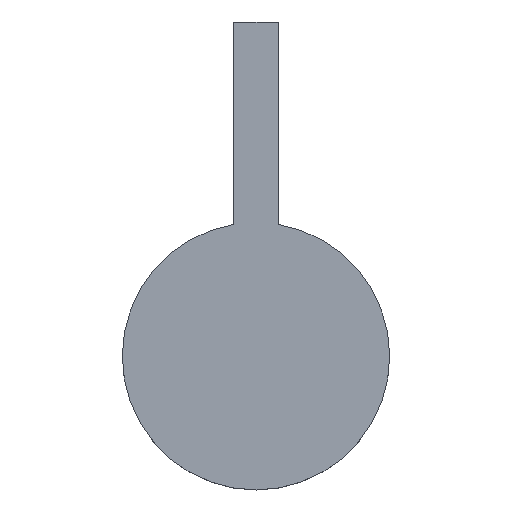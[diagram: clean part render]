
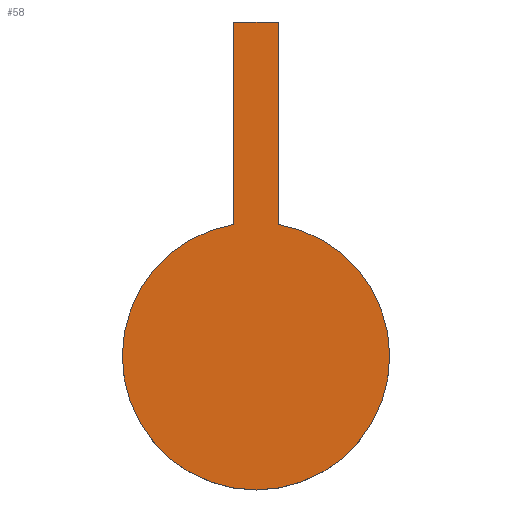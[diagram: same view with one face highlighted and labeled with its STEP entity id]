
A CAD part, top view. The second image highlights one B-rep face of the part: STEP entity #58.
In plain terms, the highlighted planar face has unit normal (0, 0, 1).
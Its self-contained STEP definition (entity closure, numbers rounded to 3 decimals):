
#58 = ADVANCED_FACE( '', ( #128 ), #129, .T. );
#128 = FACE_OUTER_BOUND( '', #211, .T. );
#129 = PLANE( '', #212 );
#211 = EDGE_LOOP( '', ( #321, #322, #323, #324 ) );
#212 = AXIS2_PLACEMENT_3D( '', #325, #326, #327 );
#321 = ORIENTED_EDGE( '', *, *, #446, .F. );
#322 = ORIENTED_EDGE( '', *, *, #468, .F. );
#323 = ORIENTED_EDGE( '', *, *, #466, .F. );
#324 = ORIENTED_EDGE( '', *, *, #469, .T. );
#325 = CARTESIAN_POINT( '', ( -150., -150., 0. ) );
#326 = DIRECTION( '', ( 0., 0., 1. ) );
#327 = DIRECTION( '', ( 0., -1., 0. ) );
#446 = EDGE_CURVE( '', #516, #517, #518, .T. );
#466 = EDGE_CURVE( '', #551, #538, #553, .T. );
#468 = EDGE_CURVE( '', #538, #516, #555, .T. );
#469 = EDGE_CURVE( '', #551, #517, #556, .T. );
#516 = VERTEX_POINT( '', #614 );
#517 = VERTEX_POINT( '', #615 );
#518 = LINE( '', #616, #617 );
#538 = VERTEX_POINT( '', #645 );
#551 = VERTEX_POINT( '', #665 );
#553 = LINE( '', #668, #669 );
#555 = CIRCLE( '', #671, 60. );
#556 = LINE( '', #672, #673 );
#614 = CARTESIAN_POINT( '', ( -10., 59.161, 0. ) );
#615 = CARTESIAN_POINT( '', ( -10., 150., 0. ) );
#616 = CARTESIAN_POINT( '', ( -10., 0., 0. ) );
#617 = VECTOR( '', #724, 1000. );
#645 = CARTESIAN_POINT( '', ( 10., 59.161, 0. ) );
#665 = CARTESIAN_POINT( '', ( 10., 150., 0. ) );
#668 = CARTESIAN_POINT( '', ( 10., 150., 0. ) );
#669 = VECTOR( '', #744, 1000. );
#671 = AXIS2_PLACEMENT_3D( '', #745, #746, #747 );
#672 = CARTESIAN_POINT( '', ( 150., 150., 0. ) );
#673 = VECTOR( '', #748, 1000. );
#724 = DIRECTION( '', ( 0., 1., 0. ) );
#744 = DIRECTION( '', ( 0., -1., 0. ) );
#745 = CARTESIAN_POINT( '', ( 0., 0., 0. ) );
#746 = DIRECTION( '', ( 0., 0., -1. ) );
#747 = DIRECTION( '', ( -1., 0., 0. ) );
#748 = DIRECTION( '', ( -1., 0., 0. ) );
